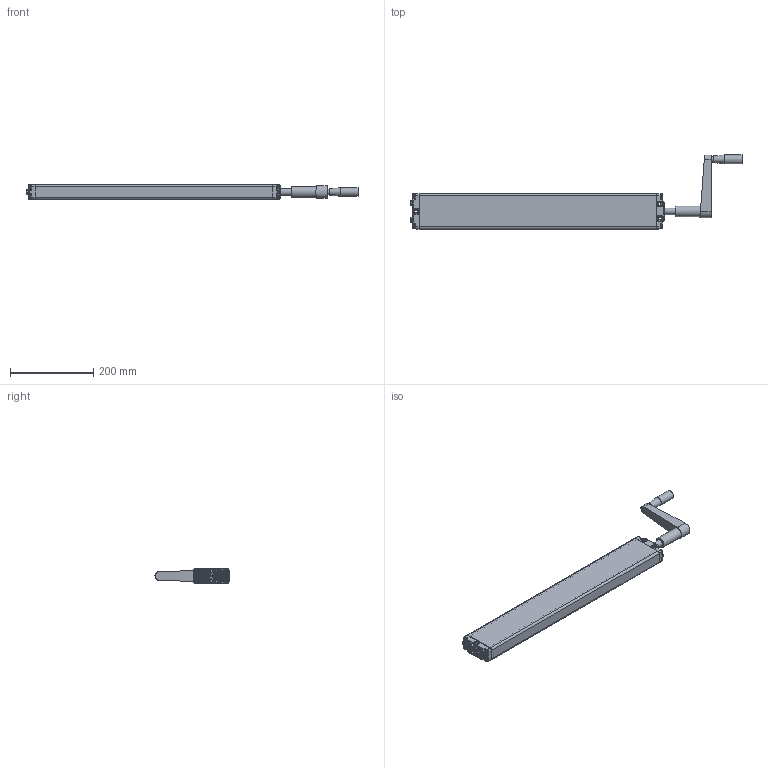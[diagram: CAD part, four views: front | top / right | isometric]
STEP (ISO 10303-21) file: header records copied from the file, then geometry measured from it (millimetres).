
FILE_DESCRIPTION(/* description */ ('Unknown'),/* implementation_level */ '2;1');
FILE_NAME(/* name */ '310.20130 Pumpe PA 2670 W mit Handkurbel',/* time_stamp */ '2016-08-10T16:45:02+02:00',/* author */ ('Unknown'),/* organization */ ('Unknown'),/* preprocessor_version */ 'ST-DEVELOPER v16.7',/* originating_system */ 'DEX',/* authorisation */ $);
FILE_SCHEMA (('AUTOMOTIVE_DESIGN {1 0 10303 214 3 1 1}'));
Products named in the file (20): 100.20130; 115.00044; 125.00046; 142.00021; 125.00021; 115.00003; 113.00005; 128.00001; 125.00052; 126.00013; 125.00053; 127.00014; Handgriff; 142.00013; 125.00144; 122.00040; 126.00002; 119.00024; 126.00001; 142.00057
Assembly tree (27 placements, depth 3):
  100.20130
    115.00044  x2
      125.00046
      142.00021
      125.00021
      115.00003
    113.00005
      128.00001
      125.00052
      126.00013
      125.00053
      127.00014
      Handgriff
    142.00013  x8
    125.00144
    122.00040
    126.00002
    119.00024
    126.00001
    142.00057
Bounding box: 797.72 x 178 x 35 mm (x, y, z)
Volume: 707081.9 mm3; surface area: 376500.4 mm2
Topology: 26 solids, 26 shells, 1987 faces, 4571 edges, 2601 vertices
Faces by surface type: plane 606, bspline 480, cylinder 457, cone 294, torus 104, sphere 46
Full cylindrical faces by diameter (mm): 3.5 x2, 4 x2, 4.1 x2, 4.2 x3, 4.917 x2, 5 x8, 6.917 x4, 8 x6, 9.8 x8, 10 x4, 10.4 x1, 12.8 x1, 13 x1, 14 x1, 16 x2, 17 x1, 17.3 x2, 18 x1, 19 x1, 20.6 x1, 21 x1, 22 x1, 22.4 x2, 25.5 x1, 25.9 x4
Entity records: 68415 total; most frequent: CARTESIAN_POINT 39240, ORIENTED_EDGE 6038, DIRECTION 5009, EDGE_CURVE 3019, AXIS2_PLACEMENT_3D 2050, VERTEX_POINT 1852, FACE_BOUND 1587, EDGE_LOOP 1584
